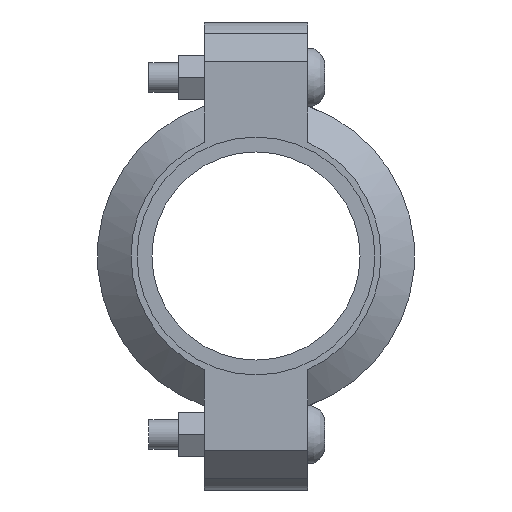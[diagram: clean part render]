
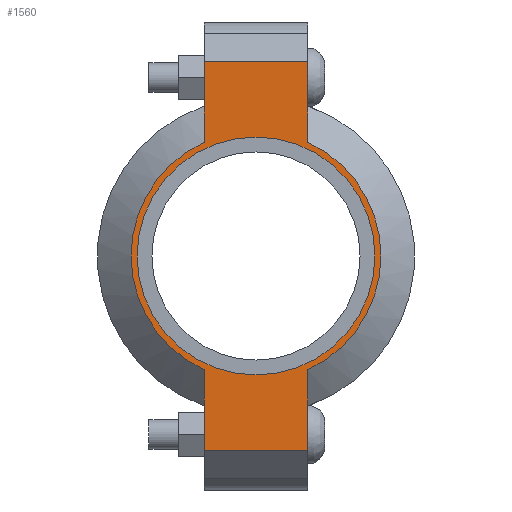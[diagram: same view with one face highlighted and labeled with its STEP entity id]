
A CAD part, left-side view. The second image highlights one B-rep face of the part: STEP entity #1560.
In plain terms, the highlighted planar face has unit normal (-1, 0, 0) as drawn and (0, 0, 1) by its records, which use the part's own axes.
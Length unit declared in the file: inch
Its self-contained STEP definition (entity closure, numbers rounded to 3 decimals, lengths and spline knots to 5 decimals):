
#166=LINE('',#2737,#261);
#179=LINE('',#2781,#274);
#184=LINE('',#2805,#279);
#191=LINE('',#2823,#286);
#198=LINE('',#2848,#293);
#199=LINE('',#2851,#294);
#261=VECTOR('',#2207,0.3937);
#274=VECTOR('',#2236,0.3937);
#279=VECTOR('',#2247,0.3937);
#286=VECTOR('',#2264,0.3937);
#293=VECTOR('',#2285,0.3937);
#294=VECTOR('',#2290,0.3937);
#346=FACE_BOUND('',#524,.T.);
#419=FACE_OUTER_BOUND('',#523,.T.);
#523=EDGE_LOOP('',(#1315,#1316,#1317,#1318,#1319,#1320,#1321,#1322));
#524=EDGE_LOOP('',(#1323));
#593=CIRCLE('',#1777,1.5);
#621=CIRCLE('',#1840,1.575);
#622=CIRCLE('',#1841,1.575);
#685=VERTEX_POINT('',#2525);
#728=VERTEX_POINT('',#2732);
#729=VERTEX_POINT('',#2736);
#745=VERTEX_POINT('',#2778);
#746=VERTEX_POINT('',#2780);
#752=VERTEX_POINT('',#2800);
#753=VERTEX_POINT('',#2804);
#758=VERTEX_POINT('',#2820);
#759=VERTEX_POINT('',#2822);
#843=EDGE_CURVE('',#685,#685,#593,.T.);
#905=EDGE_CURVE('',#729,#728,#166,.T.);
#925=EDGE_CURVE('',#746,#745,#179,.T.);
#934=EDGE_CURVE('',#753,#752,#184,.T.);
#943=EDGE_CURVE('',#759,#758,#191,.T.);
#955=EDGE_CURVE('',#753,#745,#198,.T.);
#956=EDGE_CURVE('',#752,#759,#621,.T.);
#957=EDGE_CURVE('',#729,#758,#199,.T.);
#958=EDGE_CURVE('',#728,#746,#622,.T.);
#1315=ORIENTED_EDGE('',*,*,#955,.F.);
#1316=ORIENTED_EDGE('',*,*,#934,.T.);
#1317=ORIENTED_EDGE('',*,*,#956,.T.);
#1318=ORIENTED_EDGE('',*,*,#943,.T.);
#1319=ORIENTED_EDGE('',*,*,#957,.F.);
#1320=ORIENTED_EDGE('',*,*,#905,.T.);
#1321=ORIENTED_EDGE('',*,*,#958,.T.);
#1322=ORIENTED_EDGE('',*,*,#925,.T.);
#1323=ORIENTED_EDGE('',*,*,#843,.T.);
#1401=PLANE('',#1839);
#1560=ADVANCED_FACE('',(#419,#346),#1401,.T.);
#1777=AXIS2_PLACEMENT_3D('',#2527,#2087,#2088);
#1839=AXIS2_PLACEMENT_3D('',#2849,#2286,#2287);
#1840=AXIS2_PLACEMENT_3D('',#2850,#2288,#2289);
#1841=AXIS2_PLACEMENT_3D('',#2852,#2291,#2292);
#2087=DIRECTION('center_axis',(0.,0.,-1.));
#2088=DIRECTION('ref_axis',(-1.,0.,0.));
#2207=DIRECTION('',(-1.,0.,0.));
#2236=DIRECTION('',(-1.,0.,0.));
#2247=DIRECTION('',(1.,0.,0.));
#2264=DIRECTION('',(1.,0.,0.));
#2285=DIRECTION('',(0.,1.,0.));
#2286=DIRECTION('center_axis',(0.,0.,1.));
#2287=DIRECTION('ref_axis',(1.,0.,0.));
#2288=DIRECTION('center_axis',(0.,0.,1.));
#2289=DIRECTION('ref_axis',(-1.,0.,0.));
#2290=DIRECTION('',(0.,-1.,0.));
#2291=DIRECTION('center_axis',(0.,0.,1.));
#2292=DIRECTION('ref_axis',(-1.,0.,0.));
#2525=CARTESIAN_POINT('',(1.5,0.,0.94));
#2527=CARTESIAN_POINT('Origin',(0.,0.,0.94));
#2732=CARTESIAN_POINT('',(1.43462,0.65,0.94));
#2736=CARTESIAN_POINT('',(2.45,0.65,0.94));
#2737=CARTESIAN_POINT('',(-2.95,0.65,0.94));
#2778=CARTESIAN_POINT('',(-2.45,0.65,0.94));
#2780=CARTESIAN_POINT('',(-1.43462,0.65,0.94));
#2781=CARTESIAN_POINT('',(-2.95,0.65,0.94));
#2800=CARTESIAN_POINT('',(-1.43462,-0.65,0.94));
#2804=CARTESIAN_POINT('',(-2.45,-0.65,0.94));
#2805=CARTESIAN_POINT('',(2.95,-0.65,0.94));
#2820=CARTESIAN_POINT('',(2.45,-0.65,0.94));
#2822=CARTESIAN_POINT('',(1.43462,-0.65,0.94));
#2823=CARTESIAN_POINT('',(2.95,-0.65,0.94));
#2848=CARTESIAN_POINT('',(-2.45,0.325,0.94));
#2849=CARTESIAN_POINT('Origin',(0.,0.,
0.94));
#2850=CARTESIAN_POINT('Origin',(0.,0.,0.94));
#2851=CARTESIAN_POINT('',(2.45,-0.325,0.94));
#2852=CARTESIAN_POINT('Origin',(0.,0.,0.94));
